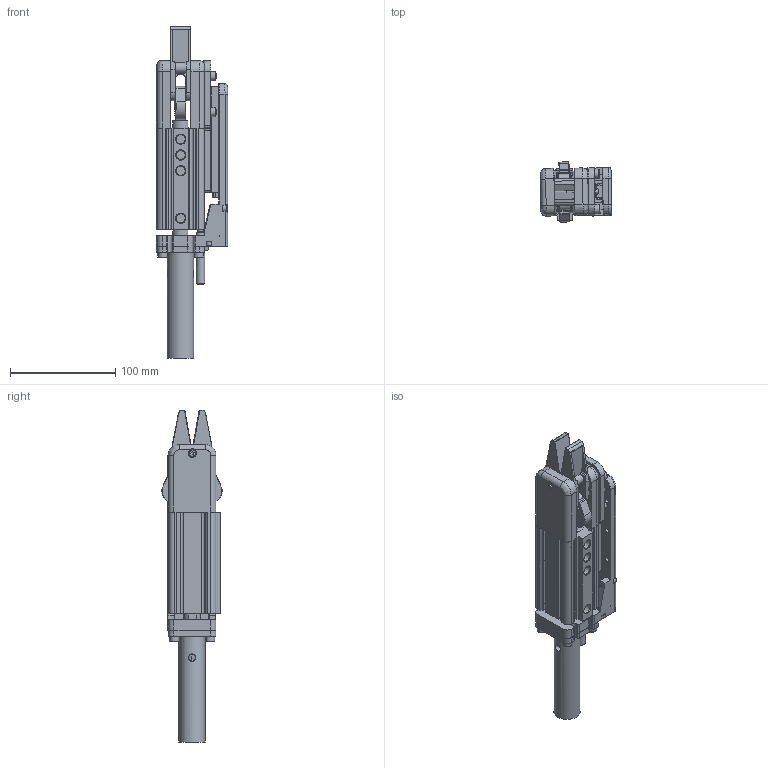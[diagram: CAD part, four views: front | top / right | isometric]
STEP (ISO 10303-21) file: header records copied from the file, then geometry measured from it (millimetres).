
FILE_DESCRIPTION(/* description */ (''),/* implementation_level */ '2;1');
FILE_NAME(/* name */ '8Y00415-GRP32C-30--25.stp',/* time_stamp */ '2023-02-22T14:55:17+08:00',/* author */ (''),/* organization */ (''),/* preprocessor_version */ 'ST-DEVELOPER v16',/* originating_system */ 'SIEMENS PLM Software NX 10.0',/* authorisation */ '');
FILE_SCHEMA (('AUTOMOTIVE_DESIGN { 1 0 10303 214 3 1 1 1 }'));
Length unit declared in the file: millimetre
Products named in the file (1): _model49
Bounding box: 67.52 x 57.07 x 314.8 mm (x, y, z)
Volume: 389230.3 mm3; surface area: 152455 mm2
Topology: 13 solids, 36 shells, 1233 faces, 3107 edges, 1950 vertices
Faces by surface type: plane 743, cylinder 310, cone 137, torus 25, revolution 14, bspline 4
Full cylindrical faces by diameter (mm): 2.5 x2, 3.3 x6, 4 x12, 4.1 x1, 4.2 x14, 4.5 x10, 5 x13, 5.2 x8, 5.5 x8, 6 x9, 6.5 x1, 6.647 x1, 7 x13, 8 x9, 8.5 x13, 8.566 x4, 9 x12, 10 x6, 13 x1, 13.5 x1, 14 x1, 15 x2, 16 x3, 17 x12, 20 x3, 21 x2, 25 x1, 32 x2, 34 x3
Entity records: 44273 total; most frequent: CARTESIAN_POINT 7920, DIRECTION 5814, ORIENTED_EDGE 5160, EDGE_CURVE 2580, AXIS2_PLACEMENT_3D 2133, VERTEX_POINT 1820, EDGE_LOOP 1700, LINE 1534
